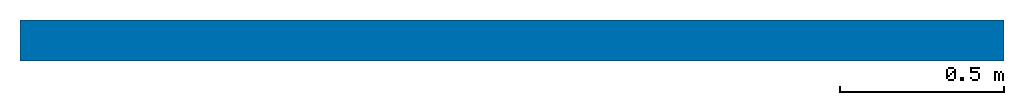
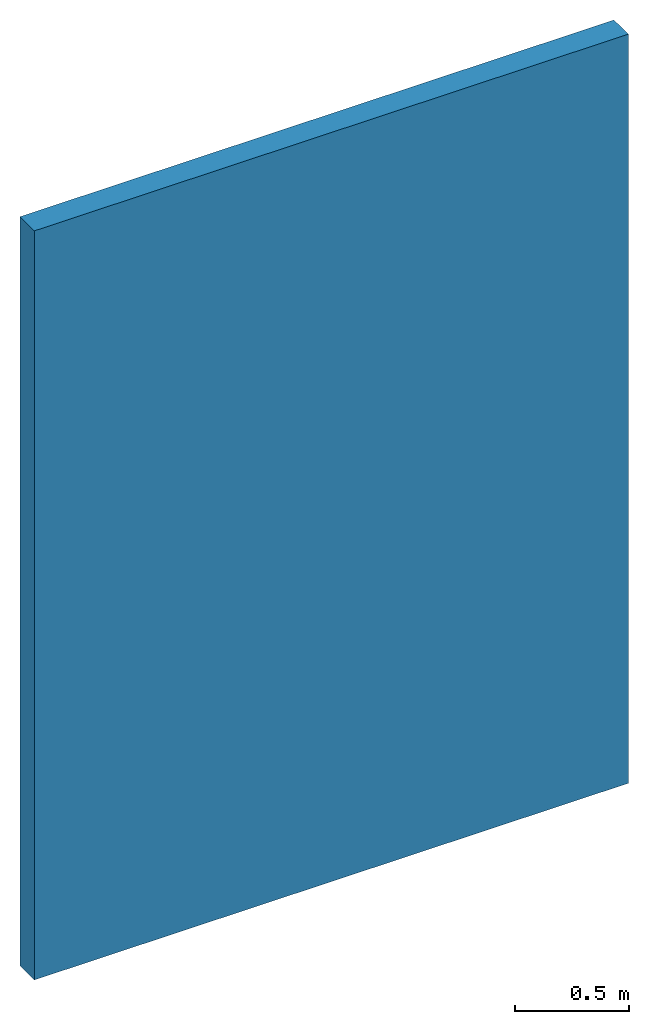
# One storey: 1 wall.
"""IFC2X3 building model written with IfcOpenShell, lengths in millimetres."""

from ifc_helpers import new_model, entity, si_unit, converted_unit, derived_unit, direction, frame, frame_2d, origin, place, context, subcontext, project, spatial, rectangle, extrude, material, layer, layer_set, layer_usage, type_object, element, save


model = new_model("IFC2X3")

# Units and contexts
model_context = context("Model", 3, precision=0.01, world=origin(), true_north=direction((6.12303176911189e-17, 1.0)))
body_context = subcontext(model_context, "Body", "Model", "MODEL_VIEW")
ifc_project = project(units=[si_unit("LENGTHUNIT", "METRE", prefix="MILLI"), si_unit("AREAUNIT", "SQUARE_METRE"), si_unit("VOLUMEUNIT", "CUBIC_METRE"), converted_unit("PLANEANGLEUNIT", "DEGREE", entity("IfcRatioMeasure", 0.0174532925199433), si_unit("PLANEANGLEUNIT", "RADIAN"), dimensions=[0, 0, 0, 0, 0, 0, 0]), si_unit("MASSUNIT", "GRAM", prefix="KILO"), si_unit("TIMEUNIT", "SECOND"), si_unit("FREQUENCYUNIT", "HERTZ"), si_unit("THERMODYNAMICTEMPERATUREUNIT", "DEGREE_CELSIUS"), derived_unit("THERMALTRANSMITTANCEUNIT", [(si_unit("MASSUNIT", "GRAM", prefix="KILO"), 1), (si_unit("THERMODYNAMICTEMPERATUREUNIT", "KELVIN"), -1), (si_unit("TIMEUNIT", "SECOND"), -3)]), derived_unit("VOLUMETRICFLOWRATEUNIT", [(si_unit("LENGTHUNIT", "METRE"), 3), (si_unit("TIMEUNIT", "SECOND"), -1)]), si_unit("ELECTRICCURRENTUNIT", "AMPERE"), si_unit("ELECTRICVOLTAGEUNIT", "VOLT"), si_unit("POWERUNIT", "WATT"), si_unit("FORCEUNIT", "NEWTON", prefix="KILO"), si_unit("ILLUMINANCEUNIT", "LUX"), si_unit("LUMINOUSFLUXUNIT", "LUMEN"), si_unit("LUMINOUSINTENSITYUNIT", "CANDELA"), derived_unit("USERDEFINED", [(si_unit("MASSUNIT", "GRAM", prefix="KILO"), -1), (si_unit("LENGTHUNIT", "METRE"), -2), (si_unit("TIMEUNIT", "SECOND"), 3), (si_unit("LUMINOUSFLUXUNIT", "LUMEN"), 1)]), derived_unit("LINEARVELOCITYUNIT", [(si_unit("LENGTHUNIT", "METRE"), 1), (si_unit("TIMEUNIT", "SECOND"), -1)]), si_unit("PRESSUREUNIT", "PASCAL"), derived_unit("USERDEFINED", [(si_unit("LENGTHUNIT", "METRE"), -2), (si_unit("MASSUNIT", "GRAM", prefix="KILO"), 1), (si_unit("TIMEUNIT", "SECOND"), -2)])], contexts=[model_context])

# Site, building, storey
site_placement = place(None, origin())
site = spatial("IfcSite", under=ifc_project, at=site_placement, Name="Default", CompositionType="ELEMENT")
building_placement = place(site_placement, origin())
building = spatial("IfcBuilding", under=site, at=building_placement, CompositionType="ELEMENT")
storey_placement = place(building_placement, origin())
storey = spatial("IfcBuildingStorey", under=building, at=storey_placement, Name="Уровень 1", CompositionType="ELEMENT", Elevation=0.0)

# Wall
ifc_material_1 = material(Name="КНАУФ-Файерборд")
ifc_layer_1 = layer(ifc_material_1, 12.5)
ifc_material_2 = material(Name="КНАУФ-лист")
ifc_layer_2 = layer(ifc_material_2, 12.5)
ifc_material_3 = material(Name="Luft")
ifc_layer_3 = layer(ifc_material_3, 25.0)
ifc_material_4 = material(Name="КНАУФ-профиль+мин.вата 75@600mm")
ifc_layer_4 = layer(ifc_material_4, 75.0)
ifc_layer_set = layer_set([ifc_layer_1, ifc_layer_2, ifc_layer_3, ifc_layer_4], Name="Базовая стена:Облицовка КНАУФ С636 Применение внутри здания ПC100/50 ПН100х40 ГСП-А 12.5 Файерборд 12.5")
ifc_layer_usage = layer_usage(ifc_layer_set, "AXIS2", "NEGATIVE", 62.5)
wall_type = type_object("IfcWallType", Name="Базовая стена:Облицовка КНАУФ С636 Применение внутри здания ПC100/50 ПН100х40 ГСП-А 12.5 Файерборд 12.5", PredefinedType="STANDARD", material=ifc_layer_set)
wall_placement = place(storey_placement, frame((2191.35211618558, -855.415203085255, 0.0)))
element("IfcWallStandardCase", 1, at=wall_placement, inside=storey, type_object=wall_type, material=ifc_layer_usage, Name="Базовая стена:Облицовка КНАУФ С636 Применение внутри здания ПC100/50 ПН100х40 ГСП-А 12.5 Файерборд 12.5", ObjectType="Базовая стена:Облицовка КНАУФ С636 Применение внутри здания ПC100/50 ПН100х40 ГСП-А 12.5 Файерборд 12.5", context=body_context, shape_type="SweptSolid", body=[
    extrude(rectangle(XDim=3000.0, YDim=125.0, at=frame_2d((1500.0, 0.0), x_axis=(-1.0, 0.0))), origin(), (0.0, 0.0, 1.0), 4000.0),
])

save(model, "model.ifc")
